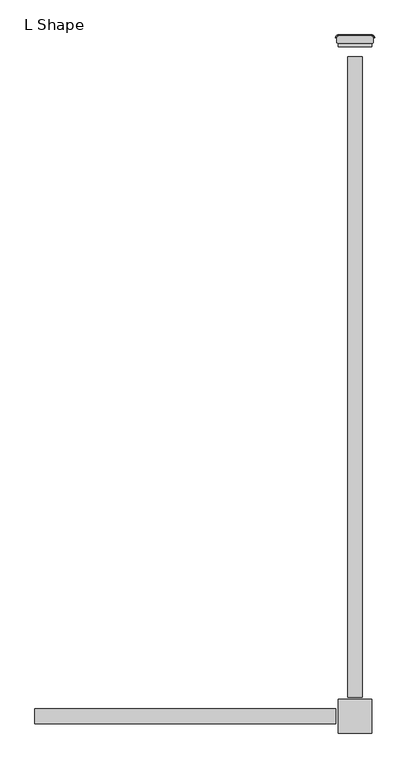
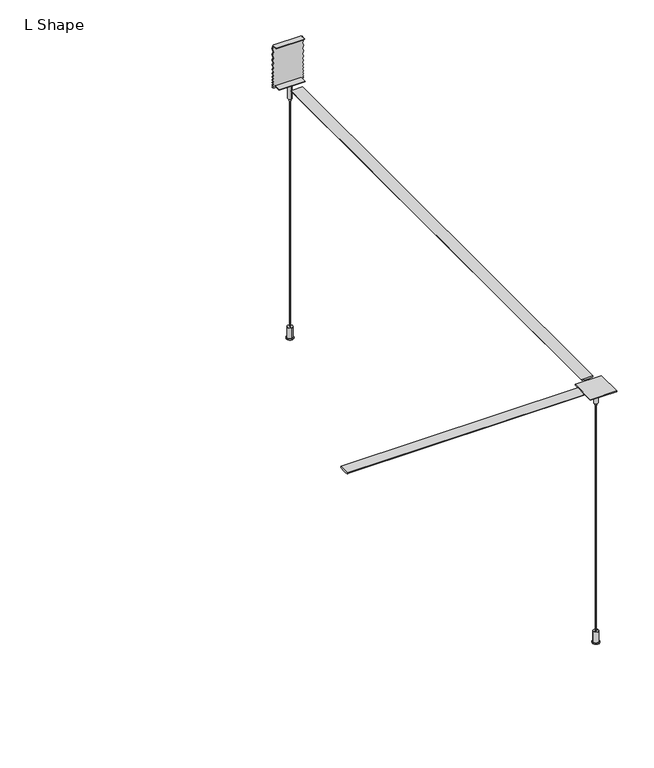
"""IFC4 building model written with IfcOpenShell, lengths in millimetres: light fixture geometry, Lighting-Pendant-Betacalco-Bellows-L_Shape : L Shape."""

from ifc_helpers import new_model, si_unit, point, frame, frame_2d, origin, place, context, project, spatial, polyline, circle_curve, trimmed, segment, composite_curve, outline, extrude, source, transform, mapped, element, save
from ifc_brep_helpers import plane_surface, cylinder_surface, revolved_surface, advanced_brep


def l_shape_a0ecf556(model_context):
    return source(origin(), model_context, "Body", "SolidModel", [
        extrude(outline(polyline([(334.6958, -30.1625), (274.9042, -30.1625), (274.9042, 30.1625), (334.6958, 30.1625), (334.6958, -30.1625)])), frame((0.0, 0.0, 612.648), z_axis=(0.0, 0.0, 1.0), x_axis=(1.0, 0.0, 0.0)), (0.0, 0.0, 1.0), 1.524),
        advanced_brep(
        [(312.8, 0.0, 0.0), (312.8, 0.0, 2.05), (296.8, 0.0, 2.05), (296.8, 0.0, 0.0), (310.8, 0.0, 2.05), (298.8, 0.0, 2.05), (310.8, 0.0, 27.4), (298.8, 0.0, 27.4), (304.8, 0.0, 27.4), (304.8, 0.0, 0.0)],
        [
            (0, 1),
            (1, 2, circle_curve(frame((304.8, 0.0, 2.05), z_axis=(0.0, 0.0, -1.0), x_axis=(-1.0, 0.0, 0.0)), 8.0)),
            (2, 3),
            (3, 0, circle_curve(frame((304.8, 0.0, 0.0), z_axis=(0.0, 0.0, 1.0), x_axis=(-1.0, 0.0, 0.0)), 8.0)),
            (2, 1, circle_curve(frame((304.8, 0.0, 2.05), z_axis=(0.0, 0.0, -1.0), x_axis=(-1.0, 0.0, 0.0)), 8.0)),
            (0, 3, circle_curve(frame((304.8, 0.0, 0.0), z_axis=(0.0, 0.0, 1.0), x_axis=(-1.0, 0.0, 0.0)), 8.0)),
            (1, 4),
            (4, 5, circle_curve(frame((304.8, 0.0, 2.05), z_axis=(0.0, 0.0, -1.0), x_axis=(-1.0, 0.0, 0.0)), 6.0)),
            (5, 2),
            (5, 4, circle_curve(frame((304.8, 0.0, 2.05), z_axis=(0.0, 0.0, -1.0), x_axis=(-1.0, 0.0, 0.0)), 6.0)),
            (4, 6),
            (6, 7, circle_curve(frame((304.8, 0.0, 27.4), z_axis=(0.0, 0.0, -1.0), x_axis=(-1.0, 0.0, 0.0)), 6.0)),
            (7, 5),
            (7, 6, circle_curve(frame((304.8, 0.0, 27.4), z_axis=(0.0, 0.0, -1.0), x_axis=(-1.0, 0.0, 0.0)), 6.0)),
            (6, 8),
            (8, 7),
            (9, 0),
            (3, 9),
        ],
        [
            cylinder_surface(frame((304.8, 0.0, 2366.7150031), z_axis=(0.0, 0.0, -1.0), x_axis=(-1.0, 0.0, 0.0)), 8.0),
            plane_surface(frame((304.8, 0.0, 2.05), z_axis=(0.0, 0.0, 1.0), x_axis=(-1.0, 0.0, 0.0))),
            cylinder_surface(frame((304.8, 0.0, 2366.7150031), z_axis=(0.0, 0.0, -1.0), x_axis=(-1.0, 0.0, 0.0)), 6.0),
            plane_surface(frame((304.8, 0.0, 27.4), z_axis=(0.0, 0.0, 1.0), x_axis=(-1.0, 0.0, 0.0))),
            plane_surface(frame((304.8, 0.0, 0.0), z_axis=(0.0, 0.0, -1.0), x_axis=(-1.0, 0.0, 0.0))),
        ],
        [
            (0, [[1, 2, 3, 4]]),
            (0, [[-3, 5, -1, 6]]),
            (1, [[7, 8, 9, -2]]),
            (1, [[-9, 10, -7, -5]]),
            (2, [[11, 12, 13, -8]]),
            (2, [[-13, 14, -11, -10]]),
            (3, [[15, 16, -12]]),
            (3, [[-16, -15, -14]]),
            (4, [[17, -4, 18]]),
            (4, [[-18, -6, -17]]),
        ],
    ),
        advanced_brep(
        [(305.5937476, 0.0, 27.4), (305.5937476, 0.0, 572.93256), (304.0062524, 0.0, 572.93256), (304.0062524, 0.0, 27.4), (304.8, 0.0, 27.4), (304.8, 0.0, 572.93256)],
        [
            (0, 1),
            (1, 2, circle_curve(frame((304.8, 0.0, 572.93256), z_axis=(0.0, 0.0, -1.0), x_axis=(-1.0, 0.0, 0.0)), 0.7937476)),
            (2, 3),
            (3, 0, circle_curve(frame((304.8, 0.0, 27.4), z_axis=(0.0, 0.0, 1.0), x_axis=(-1.0, 0.0, 0.0)), 0.7937476)),
            (2, 1, circle_curve(frame((304.8, 0.0, 572.93256), z_axis=(0.0, 0.0, -1.0), x_axis=(-1.0, 0.0, 0.0)), 0.7937476)),
            (0, 3, circle_curve(frame((304.8, 0.0, 27.4), z_axis=(0.0, 0.0, 1.0), x_axis=(-1.0, 0.0, 0.0)), 0.7937476)),
            (4, 0),
            (3, 4),
            (1, 5),
            (5, 2),
        ],
        [
            cylinder_surface(frame((304.8, 0.0, 2366.7150031), z_axis=(0.0, 0.0, -1.0), x_axis=(-1.0, 0.0, 0.0)), 0.7937476),
            plane_surface(frame((304.8, 0.0, 27.4), z_axis=(0.0, 0.0, -1.0), x_axis=(-1.0, 0.0, 0.0))),
            plane_surface(frame((304.8, 0.0, 572.93256), z_axis=(0.0, 0.0, 1.0), x_axis=(-1.0, 0.0, 0.0))),
        ],
        [
            (0, [[1, 2, 3, 4]]),
            (0, [[-3, 5, -1, 6]]),
            (1, [[7, -4, 8]]),
            (1, [[-8, -6, -7]]),
            (2, [[9, 10, -2]]),
            (2, [[-10, -9, -5]]),
        ],
    ),
        advanced_brep(
        [(309.2704, 0.0, 578.64756), (309.2704, 0.0, 612.648), (300.3296, 0.0, 612.648), (300.3296, 0.0, 578.64756), (306.7304, 0.0, 578.64756), (302.8696, 0.0, 578.64756), (306.7304, 0.0, 572.93256), (302.8696, 0.0, 572.93256), (304.8, 0.0, 572.93256), (304.8, 0.0, 612.648)],
        [
            (0, 1),
            (1, 2, circle_curve(frame((304.8, 0.0, 612.648), z_axis=(0.0, 0.0, -1.0), x_axis=(-1.0, 0.0, 0.0)), 4.4704)),
            (2, 3),
            (3, 0, circle_curve(frame((304.8, 0.0, 578.64756), z_axis=(0.0, 0.0, 1.0), x_axis=(-1.0, 0.0, 0.0)), 4.4704)),
            (2, 1, circle_curve(frame((304.8, 0.0, 612.648), z_axis=(0.0, 0.0, -1.0), x_axis=(-1.0, 0.0, 0.0)), 4.4704)),
            (0, 3, circle_curve(frame((304.8, 0.0, 578.64756), z_axis=(0.0, 0.0, 1.0), x_axis=(-1.0, 0.0, 0.0)), 4.4704)),
            (4, 0),
            (3, 5),
            (5, 4, circle_curve(frame((304.8, 0.0, 578.64756), z_axis=(0.0, 0.0, 1.0), x_axis=(-1.0, 0.0, 0.0)), 1.9304)),
            (4, 5, circle_curve(frame((304.8, 0.0, 578.64756), z_axis=(0.0, 0.0, 1.0), x_axis=(-1.0, 0.0, 0.0)), 1.9304)),
            (6, 4),
            (5, 7),
            (7, 6, circle_curve(frame((304.8, 0.0, 572.93256), z_axis=(0.0, 0.0, 1.0), x_axis=(-1.0, 0.0, 0.0)), 1.9304)),
            (6, 7, circle_curve(frame((304.8, 0.0, 572.93256), z_axis=(0.0, 0.0, 1.0), x_axis=(-1.0, 0.0, 0.0)), 1.9304)),
            (8, 6),
            (7, 8),
            (1, 9),
            (9, 2),
        ],
        [
            cylinder_surface(frame((304.8, 0.0, 2366.7150031), z_axis=(0.0, 0.0, -1.0), x_axis=(-1.0, 0.0, 0.0)), 4.4704),
            plane_surface(frame((304.8, 0.0, 578.64756), z_axis=(0.0, 0.0, -1.0), x_axis=(-1.0, 0.0, 0.0))),
            cylinder_surface(frame((304.8, 0.0, 2366.7150031), z_axis=(0.0, 0.0, -1.0), x_axis=(-1.0, 0.0, 0.0)), 1.9304),
            plane_surface(frame((304.8, 0.0, 572.93256), z_axis=(0.0, 0.0, -1.0), x_axis=(-1.0, 0.0, 0.0))),
            plane_surface(frame((304.8, 0.0, 612.648), z_axis=(0.0, 0.0, 1.0), x_axis=(-1.0, 0.0, 0.0))),
        ],
        [
            (0, [[1, 2, 3, 4]]),
            (0, [[-3, 5, -1, 6]]),
            (1, [[7, -4, 8, 9]]),
            (1, [[-8, -6, -7, 10]]),
            (2, [[11, -9, 12, 13]]),
            (2, [[-12, -10, -11, 14]]),
            (3, [[15, -13, 16]]),
            (3, [[-16, -14, -15]]),
            (4, [[17, 18, -2]]),
            (4, [[-18, -17, -5]]),
        ],
    ),
        extrude(outline(composite_curve([segment(trimmed(circle_curve(frame_2d((617.6899758, 295.0365915)), 3.0000001), [point((616.3504727, 292.3522421))], [point((614.7956432, 294.2473898))], False, "CARTESIAN"), True, "CONTINUOUS"), segment(trimmed(circle_curve(frame_2d((653.4964752, 304.8)), 40.113738), [point((614.7956432, 294.2473898))], [point((614.7956432, 315.3526102))], False, "CARTESIAN"), True, "CONTINUOUS"), segment(trimmed(circle_curve(frame_2d((617.6899758, 314.5634085)), 3.0000001), [point((614.7956432, 315.3526102))], [point((616.3504727, 317.2477579))], False, "CARTESIAN"), True, "CONTINUOUS"), segment(polyline([(616.3504727, 317.2477579), (617.6039135, 317.8732308), (617.6039135, 291.7267692), (616.3504727, 292.3522421)]), True, "CONTINUOUS")], self_intersect=False)), frame((0.0, 34.29, 0.0), z_axis=(0.0, 1.0, 0.0), x_axis=(0.0, 0.0, 1.0)), (0.0, 0.0, 1.0), 1150.62),
        advanced_brep(
        [(339.9474913, 1219.2, 611.632), (338.1694913, 1219.2, 613.664), (339.9474913, 1219.2, 616.204), (338.1694913, 1219.2, 618.744), (339.9474913, 1219.2, 621.792), (338.1694913, 1219.2, 624.84), (339.9474913, 1219.2, 628.396), (338.1694913, 1219.2, 631.952), (339.9474913, 1219.2, 635.762), (338.1694913, 1219.2, 639.572), (339.91885, 1219.2, 644.0703509), (338.1966915, 1219.2, 648.6460566), (339.9239968, 1219.2, 653.7288728), (338.1919128, 1219.2, 658.8119386), (339.9278878, 1219.2, 664.402389), (338.1882749, 1219.2, 669.9929656), (339.9308966, 1219.2, 676.091104), (338.1848944, 1219.2, 682.1911894), (339.9351705, 1219.2, 689.3067168), (338.1815995, 1219.2, 696.4195673), (339.9359826, 1219.2, 703.786321), (338.1694913, 1219.2, 711.2), (337.4229178, 1219.2, 711.2), (337.4229178, 1219.2, 709.8332722), (272.1770822, 1219.2, 709.8332722), (272.1770822, 1219.2, 711.2), (271.4305087, 1219.2, 711.2), (269.6640174, 1219.2, 703.786321), (271.4184005, 1219.2, 696.4195673), (269.6648295, 1219.2, 689.3067168), (271.4151056, 1219.2, 682.1911894), (269.6691034, 1219.2, 676.091104), (271.4117251, 1219.2, 669.9929656), (269.6721122, 1219.2, 664.402389), (271.4080872, 1219.2, 658.8119386), (269.6760032, 1219.2, 653.7288728), (271.4033085, 1219.2, 648.6460566), (269.68115, 1219.2, 644.0703509), (271.4305087, 1219.2, 639.572), (269.6525087, 1219.2, 635.762), (271.4305087, 1219.2, 631.952), (269.6525087, 1219.2, 628.396), (271.4305087, 1219.2, 624.84), (269.6525087, 1219.2, 621.792), (271.4305087, 1219.2, 618.744), (269.6525087, 1219.2, 616.204), (271.4305087, 1219.2, 613.664), (269.6525087, 1219.2, 611.632), (271.4305087, 1219.2, 609.6), (338.1694913, 1219.2, 609.6), (334.7564913, 1222.613, 609.6), (334.7564913, 1224.391, 611.632), (274.8435087, 1222.613, 609.6), (334.7564913, 1222.613, 711.2), (274.8435087, 1222.613, 711.2), (272.2845297, 1210.3807007, 711.2), (273.3999402, 1209.2222216, 711.2), (336.2000598, 1209.2222216, 711.2), (337.3154703, 1210.3807007, 711.2), (334.7564913, 1224.3794913, 703.786321), (334.7564913, 1222.6251082, 696.4195673), (334.7564913, 1224.3786792, 689.3067168), (334.7564913, 1222.6284031, 682.1911894), (334.7564913, 1224.3744054, 676.091104), (334.7564913, 1222.6317837, 669.9929656), (334.7564913, 1224.3713965, 664.402389), (334.7564913, 1222.6354215, 658.8119386), (334.7564913, 1224.3675055, 653.7288728), (334.7564913, 1222.6402002, 648.6460566), (334.7564913, 1224.3623587, 644.0703509), (334.7564913, 1222.613, 639.572), (334.7564913, 1224.391, 635.762), (334.7564913, 1222.613, 631.952), (334.7564913, 1224.391, 628.396), (334.7564913, 1222.613, 624.84), (334.7564913, 1224.391, 621.792), (334.7564913, 1222.613, 618.744), (334.7564913, 1224.391, 616.204), (334.7564913, 1222.613, 613.664), (274.8435087, 1224.391, 611.632), (274.8435087, 1224.3794913, 703.786321), (274.8435087, 1222.6251082, 696.4195673), (274.8435087, 1224.3786792, 689.3067168), (274.8435087, 1222.6284031, 682.1911894), (274.8435087, 1224.3744054, 676.091104), (274.8435087, 1222.6317837, 669.9929656), (274.8435087, 1224.3713965, 664.402389), (274.8435087, 1222.6354215, 658.8119386), (274.8435087, 1224.3675055, 653.7288728), (274.8435087, 1222.6402002, 648.6460566), (274.8435087, 1224.3623587, 644.0703509), (274.8435087, 1222.613, 639.572), (274.8435087, 1224.391, 635.762), (274.8435087, 1222.613, 631.952), (274.8435087, 1224.391, 628.396), (274.8435087, 1222.613, 624.84), (274.8435087, 1224.391, 621.792), (274.8435087, 1222.613, 618.744), (274.8435087, 1224.391, 616.204), (274.8435087, 1222.613, 613.664), (273.3999402, 1209.2222216, 709.8332722), (272.2845297, 1210.3807007, 709.8332722), (337.3154703, 1210.3807007, 709.8332722), (336.2000598, 1209.2222216, 709.8332722)],
        [
            (0, 1),
            (1, 2),
            (2, 3),
            (3, 4),
            (4, 5),
            (5, 6),
            (6, 7),
            (7, 8),
            (8, 9),
            (9, 10),
            (10, 11),
            (11, 12),
            (12, 13),
            (13, 14),
            (14, 15),
            (15, 16),
            (16, 17),
            (17, 18),
            (18, 19),
            (19, 20),
            (20, 21),
            (21, 22),
            (22, 23),
            (23, 24),
            (24, 25),
            (25, 26),
            (26, 27),
            (27, 28),
            (28, 29),
            (29, 30),
            (30, 31),
            (31, 32),
            (32, 33),
            (33, 34),
            (34, 35),
            (35, 36),
            (36, 37),
            (37, 38),
            (38, 39),
            (39, 40),
            (40, 41),
            (41, 42),
            (42, 43),
            (43, 44),
            (44, 45),
            (45, 46),
            (46, 47),
            (47, 48),
            (48, 49),
            (49, 0),
            (49, 50, circle_curve(frame((334.7564913, 1219.2, 609.6), z_axis=(0.0, 0.0, 1.0), x_axis=(1.0, 0.0, 0.0)), 3.413)),
            (50, 51),
            (51, 0, circle_curve(frame((334.7564913, 1219.2, 611.632), z_axis=(0.0, 0.0, -1.0), x_axis=(1.0, 0.0, 0.0)), 5.191)),
            (48, 52, circle_curve(frame((274.8435087, 1219.2, 609.6), z_axis=(0.0, 0.0, -1.0), x_axis=(0.0, 1.0, 0.0)), 3.413)),
            (52, 50),
            (53, 54),
            (54, 26, circle_curve(frame((274.8435087, 1219.2, 711.2), z_axis=(0.0, 0.0, 1.0), x_axis=(0.0, 1.0, 0.0)), 3.413)),
            (25, 55),
            (55, 56),
            (56, 57),
            (57, 58),
            (58, 22),
            (21, 53, circle_curve(frame((334.7564913, 1219.2, 711.2), z_axis=(0.0, 0.0, 1.0), x_axis=(1.0, 0.0, 0.0)), 3.413)),
            (20, 59, circle_curve(frame((334.7564913, 1219.2, 703.786321), z_axis=(0.0, 0.0, 1.0), x_axis=(1.0, 0.0, 0.0)), 5.1794913)),
            (59, 53),
            (19, 60, circle_curve(frame((334.7564913, 1219.2, 696.4195673), z_axis=(0.0, 0.0, 1.0), x_axis=(1.0, 0.0, 0.0)), 3.4251082)),
            (60, 59),
            (18, 61, circle_curve(frame((334.7564913, 1219.2, 689.3067168), z_axis=(0.0, 0.0, 1.0), x_axis=(1.0, 0.0, 0.0)), 5.1786792)),
            (61, 60),
            (17, 62, circle_curve(frame((334.7564913, 1219.2, 682.1911894), z_axis=(0.0, 0.0, 1.0), x_axis=(1.0, 0.0, 0.0)), 3.4284031)),
            (62, 61),
            (16, 63, circle_curve(frame((334.7564913, 1219.2, 676.091104), z_axis=(0.0, 0.0, 1.0), x_axis=(1.0, 0.0, 0.0)), 5.1744054)),
            (63, 62),
            (15, 64, circle_curve(frame((334.7564913, 1219.2, 669.9929656), z_axis=(0.0, 0.0, 1.0), x_axis=(1.0, 0.0, 0.0)), 3.4317837)),
            (64, 63),
            (14, 65, circle_curve(frame((334.7564913, 1219.2, 664.402389), z_axis=(0.0, 0.0, 1.0), x_axis=(1.0, 0.0, 0.0)), 5.1713965)),
            (65, 64),
            (13, 66, circle_curve(frame((334.7564913, 1219.2, 658.8119386), z_axis=(0.0, 0.0, 1.0), x_axis=(1.0, 0.0, 0.0)), 3.4354215)),
            (66, 65),
            (12, 67, circle_curve(frame((334.7564913, 1219.2, 653.7288728), z_axis=(0.0, 0.0, 1.0), x_axis=(1.0, 0.0, 0.0)), 5.1675055)),
            (67, 66),
            (11, 68, circle_curve(frame((334.7564913, 1219.2, 648.6460566), z_axis=(0.0, 0.0, 1.0), x_axis=(1.0, 0.0, 0.0)), 3.4402002)),
            (68, 67),
            (10, 69, circle_curve(frame((334.7564913, 1219.2, 644.0703509), z_axis=(0.0, 0.0, 1.0), x_axis=(1.0, 0.0, 0.0)), 5.1623587)),
            (69, 68),
            (9, 70, circle_curve(frame((334.7564913, 1219.2, 639.572), z_axis=(0.0, 0.0, 1.0), x_axis=(1.0, 0.0, 0.0)), 3.413)),
            (70, 69),
            (8, 71, circle_curve(frame((334.7564913, 1219.2, 635.762), z_axis=(0.0, 0.0, 1.0), x_axis=(1.0, 0.0, 0.0)), 5.191)),
            (71, 70),
            (7, 72, circle_curve(frame((334.7564913, 1219.2, 631.952), z_axis=(0.0, 0.0, 1.0), x_axis=(1.0, 0.0, 0.0)), 3.413)),
            (72, 71),
            (6, 73, circle_curve(frame((334.7564913, 1219.2, 628.396), z_axis=(0.0, 0.0, 1.0), x_axis=(1.0, 0.0, 0.0)), 5.191)),
            (73, 72),
            (5, 74, circle_curve(frame((334.7564913, 1219.2, 624.84), z_axis=(0.0, 0.0, 1.0), x_axis=(1.0, 0.0, 0.0)), 3.413)),
            (74, 73),
            (4, 75, circle_curve(frame((334.7564913, 1219.2, 621.792), z_axis=(0.0, 0.0, 1.0), x_axis=(1.0, 0.0, 0.0)), 5.191)),
            (75, 74),
            (3, 76, circle_curve(frame((334.7564913, 1219.2, 618.744), z_axis=(0.0, 0.0, 1.0), x_axis=(1.0, 0.0, 0.0)), 3.413)),
            (76, 75),
            (2, 77, circle_curve(frame((334.7564913, 1219.2, 616.204), z_axis=(0.0, 0.0, 1.0), x_axis=(1.0, 0.0, 0.0)), 5.191)),
            (77, 76),
            (1, 78, circle_curve(frame((334.7564913, 1219.2, 613.664), z_axis=(0.0, 0.0, 1.0), x_axis=(1.0, 0.0, 0.0)), 3.413)),
            (78, 77),
            (51, 78),
            (52, 79),
            (79, 51),
            (59, 80),
            (80, 54),
            (60, 81),
            (81, 80),
            (61, 82),
            (82, 81),
            (62, 83),
            (83, 82),
            (63, 84),
            (84, 83),
            (64, 85),
            (85, 84),
            (65, 86),
            (86, 85),
            (66, 87),
            (87, 86),
            (67, 88),
            (88, 87),
            (68, 89),
            (89, 88),
            (69, 90),
            (90, 89),
            (70, 91),
            (91, 90),
            (71, 92),
            (92, 91),
            (72, 93),
            (93, 92),
            (73, 94),
            (94, 93),
            (74, 95),
            (95, 94),
            (75, 96),
            (96, 95),
            (76, 97),
            (97, 96),
            (77, 98),
            (98, 97),
            (78, 99),
            (99, 98),
            (79, 99),
            (100, 101),
            (101, 24),
            (23, 102),
            (102, 103),
            (103, 100),
            (55, 101),
            (100, 56),
            (58, 102),
            (57, 103),
            (47, 79, circle_curve(frame((274.8435087, 1219.2, 611.632), z_axis=(0.0, 0.0, -1.0), x_axis=(0.0, 1.0, 0.0)), 5.191)),
            (80, 27, circle_curve(frame((274.8435087, 1219.2, 703.786321), z_axis=(0.0, 0.0, 1.0), x_axis=(0.0, 1.0, 0.0)), 5.1794913)),
            (81, 28, circle_curve(frame((274.8435087, 1219.2, 696.4195673), z_axis=(0.0, 0.0, 1.0), x_axis=(0.0, 1.0, 0.0)), 3.4251082)),
            (82, 29, circle_curve(frame((274.8435087, 1219.2, 689.3067168), z_axis=(0.0, 0.0, 1.0), x_axis=(0.0, 1.0, 0.0)), 5.1786792)),
            (83, 30, circle_curve(frame((274.8435087, 1219.2, 682.1911894), z_axis=(0.0, 0.0, 1.0), x_axis=(0.0, 1.0, 0.0)), 3.4284031)),
            (84, 31, circle_curve(frame((274.8435087, 1219.2, 676.091104), z_axis=(0.0, 0.0, 1.0), x_axis=(0.0, 1.0, 0.0)), 5.1744054)),
            (85, 32, circle_curve(frame((274.8435087, 1219.2, 669.9929656), z_axis=(0.0, 0.0, 1.0), x_axis=(0.0, 1.0, 0.0)), 3.4317837)),
            (86, 33, circle_curve(frame((274.8435087, 1219.2, 664.402389), z_axis=(0.0, 0.0, 1.0), x_axis=(0.0, 1.0, 0.0)), 5.1713965)),
            (87, 34, circle_curve(frame((274.8435087, 1219.2, 658.8119386), z_axis=(0.0, 0.0, 1.0), x_axis=(0.0, 1.0, 0.0)), 3.4354215)),
            (88, 35, circle_curve(frame((274.8435087, 1219.2, 653.7288728), z_axis=(0.0, 0.0, 1.0), x_axis=(0.0, 1.0, 0.0)), 5.1675055)),
            (89, 36, circle_curve(frame((274.8435087, 1219.2, 648.6460566), z_axis=(0.0, 0.0, 1.0), x_axis=(0.0, 1.0, 0.0)), 3.4402002)),
            (90, 37, circle_curve(frame((274.8435087, 1219.2, 644.0703509), z_axis=(0.0, 0.0, 1.0), x_axis=(0.0, 1.0, 0.0)), 5.1623587)),
            (91, 38, circle_curve(frame((274.8435087, 1219.2, 639.572), z_axis=(0.0, 0.0, 1.0), x_axis=(0.0, 1.0, 0.0)), 3.413)),
            (92, 39, circle_curve(frame((274.8435087, 1219.2, 635.762), z_axis=(0.0, 0.0, 1.0), x_axis=(0.0, 1.0, 0.0)), 5.191)),
            (93, 40, circle_curve(frame((274.8435087, 1219.2, 631.952), z_axis=(0.0, 0.0, 1.0), x_axis=(0.0, 1.0, 0.0)), 3.413)),
            (94, 41, circle_curve(frame((274.8435087, 1219.2, 628.396), z_axis=(0.0, 0.0, 1.0), x_axis=(0.0, 1.0, 0.0)), 5.191)),
            (95, 42, circle_curve(frame((274.8435087, 1219.2, 624.84), z_axis=(0.0, 0.0, 1.0), x_axis=(0.0, 1.0, 0.0)), 3.413)),
            (96, 43, circle_curve(frame((274.8435087, 1219.2, 621.792), z_axis=(0.0, 0.0, 1.0), x_axis=(0.0, 1.0, 0.0)), 5.191)),
            (97, 44, circle_curve(frame((274.8435087, 1219.2, 618.744), z_axis=(0.0, 0.0, 1.0), x_axis=(0.0, 1.0, 0.0)), 3.413)),
            (98, 45, circle_curve(frame((274.8435087, 1219.2, 616.204), z_axis=(0.0, 0.0, 1.0), x_axis=(0.0, 1.0, 0.0)), 5.191)),
            (99, 46, circle_curve(frame((274.8435087, 1219.2, 613.664), z_axis=(0.0, 0.0, 1.0), x_axis=(0.0, 1.0, 0.0)), 3.413)),
        ],
        [
            plane_surface(frame((340.1935941, 1219.2, 609.6), z_axis=(0.0, -1.0, 0.0), x_axis=(0.0, 0.0, 1.0))),
            revolved_surface(polyline([(339.9474913, 1219.2, 611.632), (338.1694913, 1219.2, 609.6)]), (334.7564913, 1219.2, 609.6), (0.0, 0.0, -1.0)),
            plane_surface(frame((334.7564913, 1219.2, 609.6), z_axis=(0.0, 0.0, -1.0), x_axis=(1.0, 0.0, 0.0))),
            plane_surface(frame((334.7564913, 1219.2, 711.2), z_axis=(0.0, 0.0, 1.0), x_axis=(1.0, 0.0, 0.0))),
            revolved_surface(polyline([(338.1694913, 1219.2, 711.2), (339.9359826, 1219.2, 703.786321)]), (334.7564913, 1219.2, 609.6), (0.0, 0.0, -1.0)),
            revolved_surface(polyline([(339.9359826, 1219.2, 703.786321), (338.1815995, 1219.2, 696.4195673)]), (334.7564913, 1219.2, 609.6), (0.0, 0.0, -1.0)),
            revolved_surface(polyline([(338.1815995, 1219.2, 696.4195673), (339.9351705, 1219.2, 689.3067168)]), (334.7564913, 1219.2, 609.6), (0.0, 0.0, -1.0)),
            revolved_surface(polyline([(339.9351705, 1219.2, 689.3067168), (338.1848944, 1219.2, 682.1911894)]), (334.7564913, 1219.2, 609.6), (0.0, 0.0, -1.0)),
            revolved_surface(polyline([(338.1848944, 1219.2, 682.1911894), (339.9308966, 1219.2, 676.091104)]), (334.7564913, 1219.2, 609.6), (0.0, 0.0, -1.0)),
            revolved_surface(polyline([(339.9308966, 1219.2, 676.091104), (338.1882749, 1219.2, 669.9929656)]), (334.7564913, 1219.2, 609.6), (0.0, 0.0, -1.0)),
            revolved_surface(polyline([(338.1882749, 1219.2, 669.9929656), (339.9278878, 1219.2, 664.402389)]), (334.7564913, 1219.2, 609.6), (0.0, 0.0, -1.0)),
            revolved_surface(polyline([(339.9278878, 1219.2, 664.402389), (338.1919128, 1219.2, 658.8119386)]), (334.7564913, 1219.2, 609.6), (0.0, 0.0, -1.0)),
            revolved_surface(polyline([(338.1919128, 1219.2, 658.8119386), (339.9239968, 1219.2, 653.7288728)]), (334.7564913, 1219.2, 609.6), (0.0, 0.0, -1.0)),
            revolved_surface(polyline([(339.9239968, 1219.2, 653.7288728), (338.1966915, 1219.2, 648.6460566)]), (334.7564913, 1219.2, 609.6), (0.0, 0.0, -1.0)),
            revolved_surface(polyline([(338.1966915, 1219.2, 648.6460566), (339.91885, 1219.2, 644.0703509)]), (334.7564913, 1219.2, 609.6), (0.0, 0.0, -1.0)),
            revolved_surface(polyline([(339.91885, 1219.2, 644.0703509), (338.1694913, 1219.2, 639.572)]), (334.7564913, 1219.2, 609.6), (0.0, 0.0, -1.0)),
            revolved_surface(polyline([(338.1694913, 1219.2, 639.572), (339.9474913, 1219.2, 635.762)]), (334.7564913, 1219.2, 609.6), (0.0, 0.0, -1.0)),
            revolved_surface(polyline([(339.9474913, 1219.2, 635.762), (338.1694913, 1219.2, 631.952)]), (334.7564913, 1219.2, 609.6), (0.0, 0.0, -1.0)),
            revolved_surface(polyline([(338.1694913, 1219.2, 631.952), (339.9474913, 1219.2, 628.396)]), (334.7564913, 1219.2, 609.6), (0.0, 0.0, -1.0)),
            revolved_surface(polyline([(339.9474913, 1219.2, 628.396), (338.1694913, 1219.2, 624.84)]), (334.7564913, 1219.2, 609.6), (0.0, 0.0, -1.0)),
            revolved_surface(polyline([(338.1694913, 1219.2, 624.84), (339.9474913, 1219.2, 621.792)]), (334.7564913, 1219.2, 609.6), (0.0, 0.0, -1.0)),
            revolved_surface(polyline([(339.9474913, 1219.2, 621.792), (338.1694913, 1219.2, 618.744)]), (334.7564913, 1219.2, 609.6), (0.0, 0.0, -1.0)),
            revolved_surface(polyline([(338.1694913, 1219.2, 618.744), (339.9474913, 1219.2, 616.204)]), (334.7564913, 1219.2, 609.6), (0.0, 0.0, -1.0)),
            revolved_surface(polyline([(339.9474913, 1219.2, 616.204), (338.1694913, 1219.2, 613.664)]), (334.7564913, 1219.2, 609.6), (0.0, 0.0, -1.0)),
            revolved_surface(polyline([(338.1694913, 1219.2, 613.664), (339.9474913, 1219.2, 611.632)]), (334.7564913, 1219.2, 609.6), (0.0, 0.0, -1.0)),
            plane_surface(frame((334.7564913, 1224.391, 611.632), z_axis=(0.0, 0.7525766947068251, -0.6585046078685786), x_axis=(-1.0, 0.0, 0.0))),
            plane_surface(frame((334.7564913, 1222.613, 711.2), z_axis=(0.0, 0.9727668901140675, 0.23178562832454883), x_axis=(-1.0, 0.0, 0.0))),
            plane_surface(frame((334.7564913, 1224.3794913, 703.786321), z_axis=(0.0, 0.9727944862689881, -0.23166978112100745), x_axis=(-1.0, 0.0, 0.0))),
            plane_surface(frame((334.7564913, 1222.6251082, 696.4195673), z_axis=(0.0, 0.9709287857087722, 0.23936852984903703), x_axis=(-1.0, 0.0, 0.0))),
            plane_surface(frame((334.7564913, 1224.3786792, 689.3067168), z_axis=(0.0, 0.9710540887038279, -0.23885970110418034), x_axis=(-1.0, 0.0, 0.0))),
            plane_surface(frame((334.7564913, 1222.6284031, 682.1911894), z_axis=(0.0, 0.9613939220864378, 0.27517581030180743), x_axis=(-1.0, 0.0, 0.0))),
            plane_surface(frame((334.7564913, 1224.3744054, 676.091104), z_axis=(0.0, 0.9615116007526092, -0.2747643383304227), x_axis=(-1.0, 0.0, 0.0))),
            plane_surface(frame((334.7564913, 1222.6317837, 669.9929656), z_axis=(0.0, 0.9548411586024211, 0.29711674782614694), x_axis=(-1.0, 0.0, 0.0))),
            plane_surface(frame((334.7564913, 1224.3713965, 664.402389), z_axis=(0.0, 0.9550153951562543, -0.29655622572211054), x_axis=(-1.0, 0.0, 0.0))),
            plane_surface(frame((334.7564913, 1222.6354215, 658.8119386), z_axis=(0.0, 0.9465545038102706, 0.3225439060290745), x_axis=(-1.0, 0.0, 0.0))),
            plane_surface(frame((334.7564913, 1224.3675055, 653.7288728), z_axis=(0.0, 0.9468211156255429, -0.3217604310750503), x_axis=(-1.0, 0.0, 0.0))),
            plane_surface(frame((334.7564913, 1222.6402002, 648.6460566), z_axis=(0.0, 0.9359069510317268, 0.3522473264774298), x_axis=(-1.0, 0.0, 0.0))),
            plane_surface(frame((334.7564913, 1224.3623587, 644.0703509), z_axis=(0.0, 0.9320046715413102, -0.36244626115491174), x_axis=(-1.0, 0.0, 0.0))),
            plane_surface(frame((334.7564913, 1222.613, 639.572), z_axis=(0.0, 0.9061831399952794, 0.42288546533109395), x_axis=(-1.0, 0.0, 0.0))),
            plane_surface(frame((334.7564913, 1224.391, 635.762), z_axis=(0.0, 0.9061831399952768, -0.42288546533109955), x_axis=(-1.0, 0.0, 0.0))),
            plane_surface(frame((334.7564913, 1222.613, 631.952), z_axis=(0.0, 0.8944271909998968, 0.4472135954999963), x_axis=(-1.0, 0.0, 0.0))),
            plane_surface(frame((334.7564913, 1224.391, 628.396), z_axis=(0.0, 0.8944271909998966, -0.44721359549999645), x_axis=(-1.0, 0.0, 0.0))),
            plane_surface(frame((334.7564913, 1222.613, 624.84), z_axis=(0.0, 0.8637789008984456, 0.5038710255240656), x_axis=(-1.0, 0.0, 0.0))),
            plane_surface(frame((334.7564913, 1224.391, 621.792), z_axis=(0.0, 0.8637789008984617, -0.503871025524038), x_axis=(-1.0, 0.0, 0.0))),
            plane_surface(frame((334.7564913, 1222.613, 618.744), z_axis=(0.0, 0.8192319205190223, 0.5734623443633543), x_axis=(-1.0, 0.0, 0.0))),
            plane_surface(frame((334.7564913, 1224.391, 616.204), z_axis=(0.0, 0.8192319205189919, -0.5734623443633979), x_axis=(-1.0, 0.0, 0.0))),
            plane_surface(frame((334.7564913, 1222.613, 613.664), z_axis=(0.0, 0.7525766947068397, 0.6585046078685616), x_axis=(-1.0, 0.0, 0.0))),
            plane_surface(frame((273.3999402, 1209.2222216, 709.8332722), z_axis=(0.0, 0.0, -1.0), x_axis=(0.6935894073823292, -0.7203705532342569, 0.0))),
            plane_surface(frame((273.3999402, 1209.2222216, 711.2), z_axis=(-0.7203705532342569, -0.6935894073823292, 0.0), x_axis=(0.0, 0.0, -1.0))),
            plane_surface(frame((272.2845297, 1210.3807007, 711.2), z_axis=(-0.9999257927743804, -0.012182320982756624, 0.0), x_axis=(0.0, 0.0, -1.0))),
            plane_surface(frame((337.4229178, 1219.2, 711.2), z_axis=(0.9999257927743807, -0.012182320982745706, 0.0), x_axis=(0.0, 0.0, -1.0))),
            plane_surface(frame((337.3154703, 1210.3807007, 711.2), z_axis=(0.7203705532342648, -0.693589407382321, 0.0), x_axis=(0.0, 0.0, -1.0))),
            plane_surface(frame((336.2000598, 1209.2222216, 711.2), z_axis=(0.0, -1.0, 0.0), x_axis=(0.0, 0.0, -1.0))),
            revolved_surface(polyline([(274.8435087, 1224.391, 611.632), (274.8435087, 1222.613, 609.6)]), (274.8435087, 1219.2, 609.6), (0.0, 0.0, -1.0)),
            revolved_surface(polyline([(274.8435087, 1222.613, 711.2), (274.8435087, 1224.3794913, 703.786321)]), (274.8435087, 1219.2, 609.6), (0.0, 0.0, -1.0)),
            revolved_surface(polyline([(274.8435087, 1224.3794913, 703.786321), (274.8435087, 1222.6251082, 696.4195673)]), (274.8435087, 1219.2, 609.6), (0.0, 0.0, -1.0)),
            revolved_surface(polyline([(274.8435087, 1222.6251082, 696.4195673), (274.8435087, 1224.3786792, 689.3067168)]), (274.8435087, 1219.2, 609.6), (0.0, 0.0, -1.0)),
            revolved_surface(polyline([(274.8435087, 1224.3786792, 689.3067168), (274.8435087, 1222.6284031, 682.1911894)]), (274.8435087, 1219.2, 609.6), (0.0, 0.0, -1.0)),
            revolved_surface(polyline([(274.8435087, 1222.6284031, 682.1911894), (274.8435087, 1224.3744054, 676.091104)]), (274.8435087, 1219.2, 609.6), (0.0, 0.0, -1.0)),
            revolved_surface(polyline([(274.8435087, 1224.3744054, 676.091104), (274.8435087, 1222.6317837, 669.9929656)]), (274.8435087, 1219.2, 609.6), (0.0, 0.0, -1.0)),
            revolved_surface(polyline([(274.8435087, 1222.6317837, 669.9929656), (274.8435087, 1224.3713965, 664.402389)]), (274.8435087, 1219.2, 609.6), (0.0, 0.0, -1.0)),
            revolved_surface(polyline([(274.8435087, 1224.3713965, 664.402389), (274.8435087, 1222.6354215, 658.8119386)]), (274.8435087, 1219.2, 609.6), (0.0, 0.0, -1.0)),
            revolved_surface(polyline([(274.8435087, 1222.6354215, 658.8119386), (274.8435087, 1224.3675055, 653.7288728)]), (274.8435087, 1219.2, 609.6), (0.0, 0.0, -1.0)),
            revolved_surface(polyline([(274.8435087, 1224.3675055, 653.7288728), (274.8435087, 1222.6402002, 648.6460566)]), (274.8435087, 1219.2, 609.6), (0.0, 0.0, -1.0)),
            revolved_surface(polyline([(274.8435087, 1222.6402002, 648.6460566), (274.8435087, 1224.3623587, 644.0703509)]), (274.8435087, 1219.2, 609.6), (0.0, 0.0, -1.0)),
            revolved_surface(polyline([(274.8435087, 1224.3623587, 644.0703509), (274.8435087, 1222.613, 639.572)]), (274.8435087, 1219.2, 609.6), (0.0, 0.0, -1.0)),
            revolved_surface(polyline([(274.8435087, 1222.613, 639.572), (274.8435087, 1224.391, 635.762)]), (274.8435087, 1219.2, 609.6), (0.0, 0.0, -1.0)),
            revolved_surface(polyline([(274.8435087, 1224.391, 635.762), (274.8435087, 1222.613, 631.952)]), (274.8435087, 1219.2, 609.6), (0.0, 0.0, -1.0)),
            revolved_surface(polyline([(274.8435087, 1222.613, 631.952), (274.8435087, 1224.391, 628.396)]), (274.8435087, 1219.2, 609.6), (0.0, 0.0, -1.0)),
            revolved_surface(polyline([(274.8435087, 1224.391, 628.396), (274.8435087, 1222.613, 624.84)]), (274.8435087, 1219.2, 609.6), (0.0, 0.0, -1.0)),
            revolved_surface(polyline([(274.8435087, 1222.613, 624.84), (274.8435087, 1224.391, 621.792)]), (274.8435087, 1219.2, 609.6), (0.0, 0.0, -1.0)),
            revolved_surface(polyline([(274.8435087, 1224.391, 621.792), (274.8435087, 1222.613, 618.744)]), (274.8435087, 1219.2, 609.6), (0.0, 0.0, -1.0)),
            revolved_surface(polyline([(274.8435087, 1222.613, 618.744), (274.8435087, 1224.391, 616.204)]), (274.8435087, 1219.2, 609.6), (0.0, 0.0, -1.0)),
            revolved_surface(polyline([(274.8435087, 1224.391, 616.204), (274.8435087, 1222.613, 613.664)]), (274.8435087, 1219.2, 609.6), (0.0, 0.0, -1.0)),
            revolved_surface(polyline([(274.8435087, 1222.613, 613.664), (274.8435087, 1224.391, 611.632)]), (274.8435087, 1219.2, 609.6), (0.0, 0.0, -1.0)),
        ],
        [
            (0, [[1, 2, 3, 4, 5, 6, 7, 8, 9, 10, 11, 12, 13, 14, 15, 16, 17, 18, 19, 20, 21, 22, 23, 24, 25, 26, 27, 28, 29, 30, 31, 32, 33, 34, 35, 36, 37, 38, 39, 40, 41, 42, 43, 44, 45, 46, 47, 48, 49, 50]]),
            (1, [[51, 52, 53, -50]]),
            (2, [[54, 55, -51, -49]]),
            (3, [[56, 57, -26, 58, 59, 60, 61, 62, -22, 63]]),
            (4, [[64, 65, -63, -21]]),
            (5, [[66, 67, -64, -20]]),
            (6, [[68, 69, -66, -19]]),
            (7, [[70, 71, -68, -18]]),
            (8, [[72, 73, -70, -17]]),
            (9, [[74, 75, -72, -16]]),
            (10, [[76, 77, -74, -15]]),
            (11, [[78, 79, -76, -14]]),
            (12, [[80, 81, -78, -13]]),
            (13, [[82, 83, -80, -12]]),
            (14, [[84, 85, -82, -11]]),
            (15, [[86, 87, -84, -10]]),
            (16, [[88, 89, -86, -9]]),
            (17, [[90, 91, -88, -8]]),
            (18, [[92, 93, -90, -7]]),
            (19, [[94, 95, -92, -6]]),
            (20, [[96, 97, -94, -5]]),
            (21, [[98, 99, -96, -4]]),
            (22, [[100, 101, -98, -3]]),
            (23, [[102, 103, -100, -2]]),
            (24, [[-53, 104, -102, -1]]),
            (25, [[-55, 105, 106, -52]]),
            (26, [[-65, 107, 108, -56]]),
            (27, [[109, 110, -107, -67]]),
            (28, [[111, 112, -109, -69]]),
            (29, [[113, 114, -111, -71]]),
            (30, [[115, 116, -113, -73]]),
            (31, [[117, 118, -115, -75]]),
            (32, [[119, 120, -117, -77]]),
            (33, [[121, 122, -119, -79]]),
            (34, [[123, 124, -121, -81]]),
            (35, [[125, 126, -123, -83]]),
            (36, [[127, 128, -125, -85]]),
            (37, [[129, 130, -127, -87]]),
            (38, [[131, 132, -129, -89]]),
            (39, [[133, 134, -131, -91]]),
            (40, [[135, 136, -133, -93]]),
            (41, [[137, 138, -135, -95]]),
            (42, [[139, 140, -137, -97]]),
            (43, [[141, 142, -139, -99]]),
            (44, [[143, 144, -141, -101]]),
            (45, [[145, 146, -143, -103]]),
            (46, [[-106, 147, -145, -104]]),
            (47, [[148, 149, -24, 150, 151, 152]]),
            (48, [[153, -148, 154, -59]]),
            (49, [[-25, -149, -153, -58]]),
            (50, [[155, -150, -23, -62]]),
            (51, [[156, -151, -155, -61]]),
            (52, [[-154, -152, -156, -60]]),
            (53, [[-48, 157, -105, -54]]),
            (54, [[-108, 158, -27, -57]]),
            (55, [[159, -28, -158, -110]]),
            (56, [[160, -29, -159, -112]]),
            (57, [[161, -30, -160, -114]]),
            (58, [[162, -31, -161, -116]]),
            (59, [[163, -32, -162, -118]]),
            (60, [[164, -33, -163, -120]]),
            (61, [[165, -34, -164, -122]]),
            (62, [[166, -35, -165, -124]]),
            (63, [[167, -36, -166, -126]]),
            (64, [[168, -37, -167, -128]]),
            (65, [[169, -38, -168, -130]]),
            (66, [[170, -39, -169, -132]]),
            (67, [[171, -40, -170, -134]]),
            (68, [[172, -41, -171, -136]]),
            (69, [[173, -42, -172, -138]]),
            (70, [[174, -43, -173, -140]]),
            (71, [[175, -44, -174, -142]]),
            (72, [[176, -45, -175, -144]]),
            (73, [[177, -46, -176, -146]]),
            (74, [[-157, -47, -177, -147]]),
        ],
    ),
        extrude(outline(composite_curve([segment(polyline([(-12.4477579, 616.3504727), (-13.0732308, 617.6039135), (13.0732308, 617.6039135), (12.4477579, 616.3504727)]), True, "CONTINUOUS"), segment(trimmed(circle_curve(frame_2d((9.7634085, 617.6899758)), 3.0000001), [point((12.4477579, 616.3504727))], [point((10.5526102, 614.7956432))], False, "CARTESIAN"), True, "CONTINUOUS"), segment(trimmed(circle_curve(frame_2d((0.0, 653.4964752)), 40.113738), [point((10.5526102, 614.7956432))], [point((-10.5526102, 614.7956432))], False, "CARTESIAN"), True, "CONTINUOUS"), segment(trimmed(circle_curve(frame_2d((-9.7634085, 617.6899758)), 3.0000001), [point((-10.5526102, 614.7956432))], [point((-12.4477579, 616.3504727))], False, "CARTESIAN"), True, "CONTINUOUS")], self_intersect=False)), frame((-270.51, 0.0, 0.0), z_axis=(1.0, 0.0, 0.0), x_axis=(0.0, 1.0, 0.0)), (0.0, 0.0, 1.0), 541.02),
        extrude(outline(polyline([(274.9042, 1203.325), (274.9042, 1219.2), (335.2292, 1219.2), (335.2292, 1203.325), (274.9042, 1203.325)])), frame((0.0, 0.0, 612.648), z_axis=(0.0, 0.0, 1.0), x_axis=(1.0, 0.0, 0.0)), (0.0, 0.0, 1.0), 1.524),
        advanced_brep(
        [(304.8, 1203.2625, 0.0), (304.8, 1203.2625, 2.05), (304.8, 1219.2625, 2.05), (304.8, 1219.2625, 0.0), (304.8, 1205.2625, 2.05), (304.8, 1217.2625, 2.05), (304.8, 1205.2625, 27.4), (304.8, 1217.2625, 27.4), (304.8, 1211.2625, 27.4), (304.8, 1211.2625, 0.0)],
        [
            (0, 1),
            (1, 2, circle_curve(frame((304.8, 1211.2625, 2.05), z_axis=(0.0, 0.0, -1.0), x_axis=(0.0, 1.0, 0.0)), 8.0)),
            (2, 3),
            (3, 0, circle_curve(frame((304.8, 1211.2625, 0.0), z_axis=(0.0, 0.0, 1.0), x_axis=(0.0, 1.0, 0.0)), 8.0)),
            (2, 1, circle_curve(frame((304.8, 1211.2625, 2.05), z_axis=(0.0, 0.0, -1.0), x_axis=(0.0, 1.0, 0.0)), 8.0)),
            (0, 3, circle_curve(frame((304.8, 1211.2625, 0.0), z_axis=(0.0, 0.0, 1.0), x_axis=(0.0, 1.0, 0.0)), 8.0)),
            (1, 4),
            (4, 5, circle_curve(frame((304.8, 1211.2625, 2.05), z_axis=(0.0, 0.0, -1.0), x_axis=(0.0, 1.0, 0.0)), 6.0)),
            (5, 2),
            (5, 4, circle_curve(frame((304.8, 1211.2625, 2.05), z_axis=(0.0, 0.0, -1.0), x_axis=(0.0, 1.0, 0.0)), 6.0)),
            (4, 6),
            (6, 7, circle_curve(frame((304.8, 1211.2625, 27.4), z_axis=(0.0, 0.0, -1.0), x_axis=(0.0, 1.0, 0.0)), 6.0)),
            (7, 5),
            (7, 6, circle_curve(frame((304.8, 1211.2625, 27.4), z_axis=(0.0, 0.0, -1.0), x_axis=(0.0, 1.0, 0.0)), 6.0)),
            (6, 8),
            (8, 7),
            (9, 0),
            (3, 9),
        ],
        [
            cylinder_surface(frame((304.8, 1211.2625, 2366.7150031), z_axis=(0.0, 0.0, -1.0), x_axis=(0.0, 1.0, 0.0)), 8.0),
            plane_surface(frame((304.8, 1211.2625, 2.05), z_axis=(0.0, 0.0, 1.0), x_axis=(0.0, 1.0, 0.0))),
            cylinder_surface(frame((304.8, 1211.2625, 2366.7150031), z_axis=(0.0, 0.0, -1.0), x_axis=(0.0, 1.0, 0.0)), 6.0),
            plane_surface(frame((304.8, 1211.2625, 27.4), z_axis=(0.0, 0.0, 1.0), x_axis=(0.0, 1.0, 0.0))),
            plane_surface(frame((304.8, 1211.2625, 0.0), z_axis=(0.0, 0.0, -1.0), x_axis=(0.0, 1.0, 0.0))),
        ],
        [
            (0, [[1, 2, 3, 4]]),
            (0, [[-3, 5, -1, 6]]),
            (1, [[7, 8, 9, -2]]),
            (1, [[-9, 10, -7, -5]]),
            (2, [[11, 12, 13, -8]]),
            (2, [[-13, 14, -11, -10]]),
            (3, [[15, 16, -12]]),
            (3, [[-16, -15, -14]]),
            (4, [[17, -4, 18]]),
            (4, [[-18, -6, -17]]),
        ],
    ),
        advanced_brep(
        [(304.8, 1210.4687524, 27.4), (304.8, 1210.4687524, 572.93256), (304.8, 1212.0562476, 572.93256), (304.8, 1212.0562476, 27.4), (304.8, 1211.2625, 27.4), (304.8, 1211.2625, 572.93256)],
        [
            (0, 1),
            (1, 2, circle_curve(frame((304.8, 1211.2625, 572.93256), z_axis=(0.0, 0.0, -1.0), x_axis=(0.0, 1.0, 0.0)), 0.7937476)),
            (2, 3),
            (3, 0, circle_curve(frame((304.8, 1211.2625, 27.4), z_axis=(0.0, 0.0, 1.0), x_axis=(0.0, 1.0, 0.0)), 0.7937476)),
            (2, 1, circle_curve(frame((304.8, 1211.2625, 572.93256), z_axis=(0.0, 0.0, -1.0), x_axis=(0.0, 1.0, 0.0)), 0.7937476)),
            (0, 3, circle_curve(frame((304.8, 1211.2625, 27.4), z_axis=(0.0, 0.0, 1.0), x_axis=(0.0, 1.0, 0.0)), 0.7937476)),
            (4, 0),
            (3, 4),
            (1, 5),
            (5, 2),
        ],
        [
            cylinder_surface(frame((304.8, 1211.2625, 2366.7150031), z_axis=(0.0, 0.0, -1.0), x_axis=(0.0, 1.0, 0.0)), 0.7937476),
            plane_surface(frame((304.8, 1211.2625, 27.4), z_axis=(0.0, 0.0, -1.0), x_axis=(0.0, 1.0, 0.0))),
            plane_surface(frame((304.8, 1211.2625, 572.93256), z_axis=(0.0, 0.0, 1.0), x_axis=(0.0, 1.0, 0.0))),
        ],
        [
            (0, [[1, 2, 3, 4]]),
            (0, [[-3, 5, -1, 6]]),
            (1, [[7, -4, 8]]),
            (1, [[-8, -6, -7]]),
            (2, [[9, 10, -2]]),
            (2, [[-10, -9, -5]]),
        ],
    ),
        advanced_brep(
        [(304.8, 1206.7921, 578.64756), (304.8, 1206.7921, 612.648), (304.8, 1215.7329, 612.648), (304.8, 1215.7329, 578.64756), (304.8, 1209.3321, 578.64756), (304.8, 1213.1929, 578.64756), (304.8, 1209.3321, 572.93256), (304.8, 1213.1929, 572.93256), (304.8, 1211.2625, 572.93256), (304.8, 1211.2625, 612.648)],
        [
            (0, 1),
            (1, 2, circle_curve(frame((304.8, 1211.2625, 612.648), z_axis=(0.0, 0.0, -1.0), x_axis=(0.0, 1.0, 0.0)), 4.4704)),
            (2, 3),
            (3, 0, circle_curve(frame((304.8, 1211.2625, 578.64756), z_axis=(0.0, 0.0, 1.0), x_axis=(0.0, 1.0, 0.0)), 4.4704)),
            (2, 1, circle_curve(frame((304.8, 1211.2625, 612.648), z_axis=(0.0, 0.0, -1.0), x_axis=(0.0, 1.0, 0.0)), 4.4704)),
            (0, 3, circle_curve(frame((304.8, 1211.2625, 578.64756), z_axis=(0.0, 0.0, 1.0), x_axis=(0.0, 1.0, 0.0)), 4.4704)),
            (4, 0),
            (3, 5),
            (5, 4, circle_curve(frame((304.8, 1211.2625, 578.64756), z_axis=(0.0, 0.0, 1.0), x_axis=(0.0, 1.0, 0.0)), 1.9304)),
            (4, 5, circle_curve(frame((304.8, 1211.2625, 578.64756), z_axis=(0.0, 0.0, 1.0), x_axis=(0.0, 1.0, 0.0)), 1.9304)),
            (6, 4),
            (5, 7),
            (7, 6, circle_curve(frame((304.8, 1211.2625, 572.93256), z_axis=(0.0, 0.0, 1.0), x_axis=(0.0, 1.0, 0.0)), 1.9304)),
            (6, 7, circle_curve(frame((304.8, 1211.2625, 572.93256), z_axis=(0.0, 0.0, 1.0), x_axis=(0.0, 1.0, 0.0)), 1.9304)),
            (8, 6),
            (7, 8),
            (1, 9),
            (9, 2),
        ],
        [
            cylinder_surface(frame((304.8, 1211.2625, 2366.7150031), z_axis=(0.0, 0.0, -1.0), x_axis=(0.0, 1.0, 0.0)), 4.4704),
            plane_surface(frame((304.8, 1211.2625, 578.64756), z_axis=(0.0, 0.0, -1.0), x_axis=(0.0, 1.0, 0.0))),
            cylinder_surface(frame((304.8, 1211.2625, 2366.7150031), z_axis=(0.0, 0.0, -1.0), x_axis=(0.0, 1.0, 0.0)), 1.9304),
            plane_surface(frame((304.8, 1211.2625, 572.93256), z_axis=(0.0, 0.0, -1.0), x_axis=(0.0, 1.0, 0.0))),
            plane_surface(frame((304.8, 1211.2625, 612.648), z_axis=(0.0, 0.0, 1.0), x_axis=(0.0, 1.0, 0.0))),
        ],
        [
            (0, [[1, 2, 3, 4]]),
            (0, [[-3, 5, -1, 6]]),
            (1, [[7, -4, 8, 9]]),
            (1, [[-8, -6, -7, 10]]),
            (2, [[11, -9, 12, 13]]),
            (2, [[-12, -10, -11, 14]]),
            (3, [[15, -13, 16]]),
            (3, [[-16, -14, -15]]),
            (4, [[17, 18, -2]]),
            (4, [[-18, -17, -5]]),
        ],
    ),
    ])


if __name__ == "__main__":
    model = new_model("IFC4")
    model_context = context("Model", 3, world=origin())
    ifc_project = project(units=[si_unit("LENGTHUNIT", "METRE", prefix="MILLI")], contexts=[model_context])
    site = spatial("IfcSite", under=ifc_project)
    building = spatial("IfcBuilding", under=site)
    placement = place(None, origin())
    l_shape_shape = l_shape_a0ecf556(model_context)
    element("IfcLightFixture", 1, ObjectType="Lighting-Pendant-Betacalco-Bellows-L_Shape : L Shape", at=placement, inside=building, context=model_context, shape_type="MappedRepresentation", body=[
        mapped(l_shape_shape, transform((0.0, 0.0, 0.0), x_axis=(1.0, 0.0, 0.0), y_axis=(0.0, 1.0, 0.0), z_axis=(0.0, 0.0, 1.0))),
    ])
    save(model, "model.ifc")
